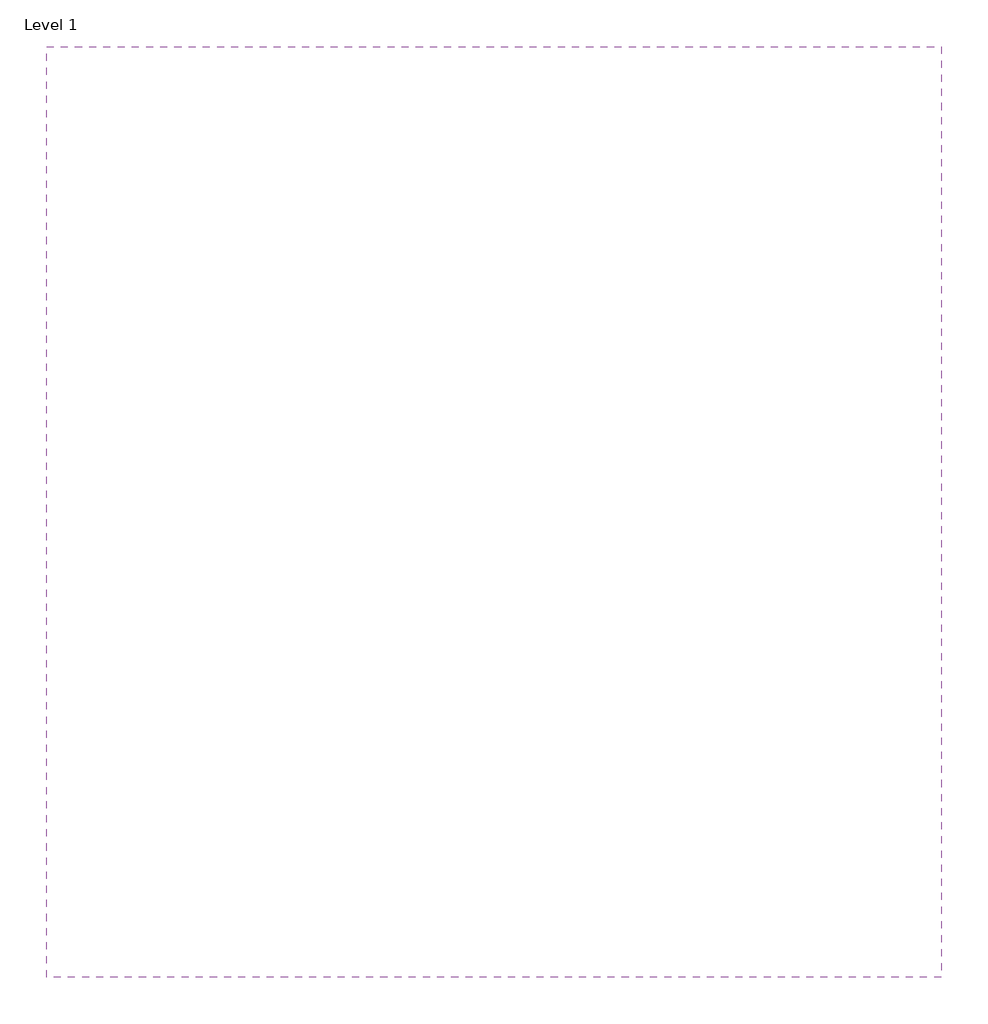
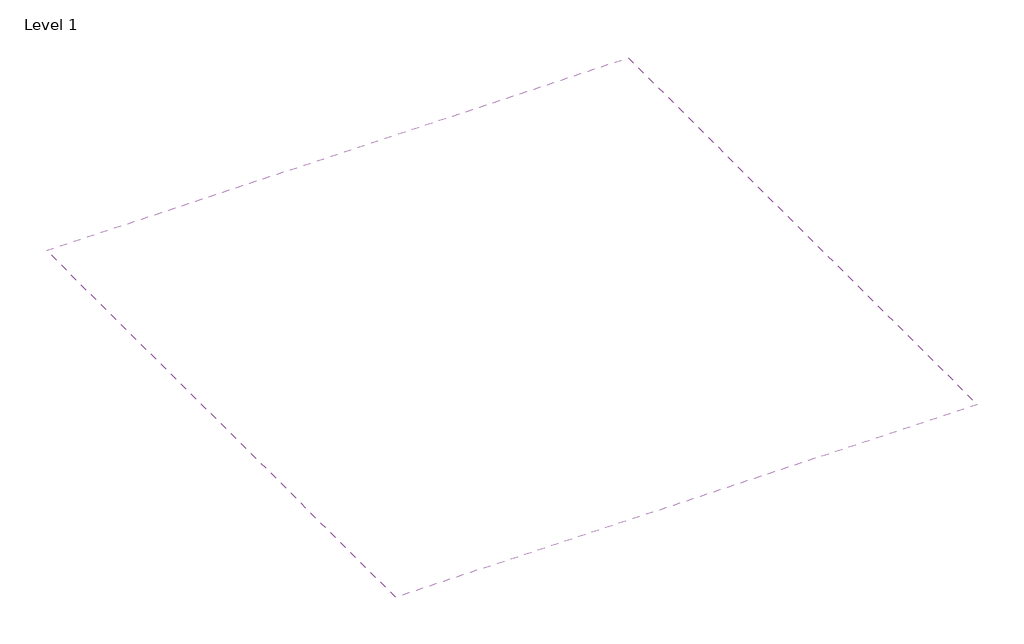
# One storey: 1 covering.
"""IFC4 building model written with IfcOpenShell, lengths in millimetres."""

from ifc_helpers import new_model, si_unit, frame, origin, place, context, project, spatial, polyline, outline, extrude, element, save

model = new_model("IFC4")

# Units and contexts
model_context = context("Model", 3, world=origin())
ifc_project = project(units=[si_unit("LENGTHUNIT", "METRE", prefix="MILLI")], contexts=[model_context])

# Site, building, storey
site = spatial("IfcSite", under=ifc_project)
building = spatial("IfcBuilding", under=site)
storey = spatial("IfcBuildingStorey", under=building, Name="Level 1", Elevation=0.0)

# Covering
placement = place(None, origin())
element("IfcCovering", 1, ObjectType="NBS_ArmstrongCeilingsLtd_UnitModularSuspendedCeilingSystem_CoolZoneMicroLook8-16-Prelude15Exposed_600x600x25mm_GB", at=placement, inside=storey, context=model_context, shape_type="SweptSolid", body=[
    extrude(outline(polyline([(2400.0, -100.0), (-100.0, -100.0), (-100.0, 2500.0), (2400.0, 2500.0), (2400.0, -100.0)])), frame((0.0, 0.0, 2600.0), z_axis=(0.0, 0.0, 1.0), x_axis=(1.0, 0.0, 0.0)), (0.0, 0.0, 1.0), 51.0),
])

save(model, "model.ifc")
